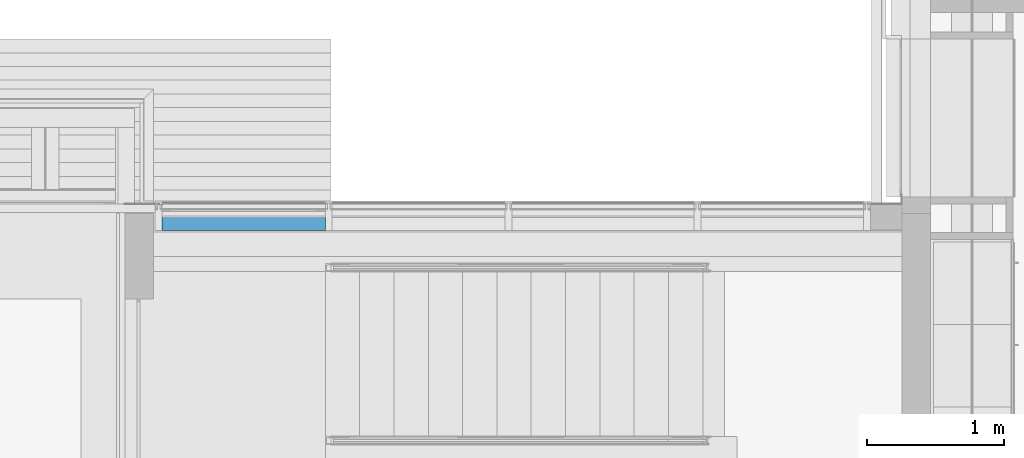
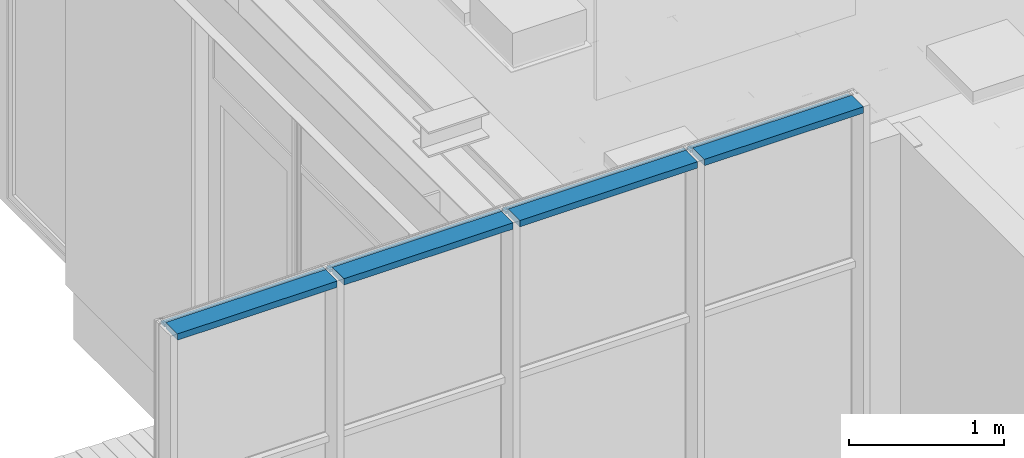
# One storey, part 105 of 347: 1 building element part, 1 opening, 1 element without a shape of its own.
"""IFC2X3 building model written with IfcOpenShell, lengths in millimetres."""

import ifcopenshell
import ifcopenshell.guid

model = None  # the IFC model being written
_history = None  # IfcOwnerHistory: only IFC2X3 demands one
_inside = {}  # id of a spatial element -> (the spatial element, [elements in it])
_under = {}  # id of a project, library or spatial element -> (it, [spatial elements below it])
_declared = {}  # id of a project -> (the project, [libraries it declares])
_typed = {}  # id of a type object -> (the type object, [elements of that type])
_made_of = {}  # id of a material, layer set ... -> (it, [elements and type objects made of it])


def new_model(schema):
    """Start an empty IFC model of exactly this schema.

    Asked for "IFC4X3", IfcOpenShell would pick the latest addendum, in which some entities
    have other attributes; the version numbers below select the first issue.
    IFC2X3 requires an IfcOwnerHistory on every rooted entity: one is made here for all.
    """
    global model, _history
    if schema == "IFC4X3":
        model = ifcopenshell.file(schema_version=(4, 3, 0, 0))
    else:
        model = ifcopenshell.file(schema=schema)
    _inside.clear()
    _under.clear()
    _declared.clear()
    _typed.clear()
    _made_of.clear()
    _history = None
    if model.schema == "IFC2X3":
        org = make("IfcOrganization", Name="unknown")
        user = make(
            "IfcPersonAndOrganization",
            ThePerson=make("IfcPerson", FamilyName="unknown"),
            TheOrganization=org,
        )
        app = make(
            "IfcApplication",
            ApplicationDeveloper=org,
            Version="unknown",
            ApplicationFullName="unknown",
            ApplicationIdentifier="unknown",
        )
        _history = make(
            "IfcOwnerHistory",
            OwningUser=user,
            OwningApplication=app,
            ChangeAction="ADDED",
            CreationDate=0,
        )
    return model


def make(cls, **values):
    """One entity of the class cls with the attributes given. An attribute that is None is left unset."""
    return model.create_entity(
        cls, **{name: value for name, value in values.items() if value is not None}
    )


def entity(cls, *values):
    """Any entity or typed value of the class cls, its attributes in the order of the schema. None: left unset."""
    e = model.create_entity(cls)
    for i, value in enumerate(values):
        if value is not None:
            e[i] = value
    return e


def rooted(cls, **values):
    """An entity with a GlobalId (a new one), such as an element, a storey or a relation."""
    return make(cls, GlobalId=ifcopenshell.guid.new(), OwnerHistory=_history, **values)


def si_unit(unit_type, name, prefix=None):
    """IfcSIUnit, for example si_unit("LENGTHUNIT", "METRE", prefix="MILLI")."""
    return make("IfcSIUnit", UnitType=unit_type, Prefix=prefix, Name=name)


def converted_unit(unit_type, name, factor, base, dimensions=None, offset=None):
    """IfcConversionBasedUnit, such as the inch: factor (a typed value) times the base unit."""
    return make(
        "IfcConversionBasedUnit"
        if offset is None
        else "IfcConversionBasedUnitWithOffset",
        ConversionOffset=offset,
        Dimensions=None
        if dimensions is None
        else entity("IfcDimensionalExponents", *dimensions),
        UnitType=unit_type,
        Name=name,
        ConversionFactor=make(
            "IfcMeasureWithUnit", ValueComponent=factor, UnitComponent=base
        ),
    )


def derived_unit(unit_type, elements):
    """IfcDerivedUnit: a product of units, each with its exponent."""
    return make(
        "IfcDerivedUnit",
        Elements=[
            make("IfcDerivedUnitElement", Unit=unit, Exponent=power)
            for unit, power in elements
        ],
        UnitType=unit_type,
    )


def money_unit(currency):
    """IfcMonetaryUnit."""
    return make("IfcMonetaryUnit", Currency=currency)


def assignment(units):
    """IfcUnitAssignment: the units of a project."""
    return None if units is None else make("IfcUnitAssignment", Units=units)


def point(xyz):
    """IfcCartesianPoint."""
    return None if xyz is None else make("IfcCartesianPoint", Coordinates=xyz)


def direction(xyz):
    """IfcDirection."""
    return None if xyz is None else make("IfcDirection", DirectionRatios=xyz)


def frame(location, z_axis=None, x_axis=None):
    """IfcAxis2Placement3D, a coordinate frame: its origin and axes. An axis left out is left unset."""
    return make(
        "IfcAxis2Placement3D",
        Location=point(location),
        Axis=direction(z_axis),
        RefDirection=direction(x_axis),
    )


def origin_with_axes():
    """The frame at (0, 0, 0) with the z axis (0, 0, 1) and the x axis (1, 0, 0) written out."""
    return frame((0.0, 0.0, 0.0), z_axis=(0.0, 0.0, 1.0), x_axis=(1.0, 0.0, 0.0))


def place(relative_to, where):
    """IfcLocalPlacement: puts the frame where relative to a parent placement (None: the world)."""
    return make(
        "IfcLocalPlacement", PlacementRelTo=relative_to, RelativePlacement=where
    )


def context(
    kind, dimensions, precision=None, world=None, true_north=None, identifier=None
):
    """IfcGeometricRepresentationContext, for example the 3D "Model" context."""
    return make(
        "IfcGeometricRepresentationContext",
        ContextIdentifier=identifier,
        ContextType=kind,
        CoordinateSpaceDimension=dimensions,
        Precision=precision,
        WorldCoordinateSystem=world,
        TrueNorth=true_north,
    )


def subcontext(parent, identifier, kind, view, scale=None):
    """IfcGeometricRepresentationSubContext, for example "Body" below "Model"."""
    return make(
        "IfcGeometricRepresentationSubContext",
        ContextIdentifier=identifier,
        ContextType=kind,
        ParentContext=parent,
        TargetScale=scale,
        TargetView=view,
    )


def project(units=None, contexts=None):
    """IfcProject with its units and contexts."""
    return rooted(
        "IfcProject",
        Name="project",
        RepresentationContexts=contexts,
        UnitsInContext=assignment(units),
    )


def spatial(cls, under=None, at=None, **own):
    """A site, building, storey or space (cls), placed at a placement, below another one or the project."""
    s = rooted(cls, ObjectPlacement=at, **own)
    if under is not None:
        _under.setdefault(under.id(), (under, []))[1].append(s)
    return s


def faces_of(points, faces, orient=None, outer=None):
    """IfcFace entities. A face is a list of loops; a loop is a list of indices into points, from 0.

    orient and outer hold one flag for each loop. By default every Orientation is true, the
    first loop of a face is its IfcFaceOuterBound and the others are IfcFaceBound.
    """
    made = []
    for i, loops in enumerate(faces):
        bounds = []
        for j, loop in enumerate(loops):
            is_outer = j == 0 if outer is None else outer[i][j]
            bounds.append(
                make(
                    "IfcFaceOuterBound" if is_outer else "IfcFaceBound",
                    Bound=make("IfcPolyLoop", Polygon=[points[k] for k in loop]),
                    Orientation=True if orient is None else orient[i][j],
                )
            )
        made.append(make("IfcFace", Bounds=bounds))
    return made


def faceted_brep(points, faces, orient=None, outer=None, voids=None):
    """IfcFacetedBrep: a solid bounded by flat faces; with voids (closed shells), ...WithVoids."""
    shared = [point(p) for p in points]
    hull = make("IfcClosedShell", CfsFaces=faces_of(shared, faces, orient, outer))
    if voids is None:
        return make("IfcFacetedBrep", Outer=hull)
    return make(
        "IfcFacetedBrepWithVoids",
        Outer=hull,
        Voids=[
            make(cls, CfsFaces=faces_of(shared, fs, o, b)) for cls, fs, o, b in voids
        ],
    )


def shape(context_of_items, identifier, shape_type, items):
    """IfcShapeRepresentation: the items that make up one representation, for example the "Body"."""
    return make(
        "IfcShapeRepresentation",
        ContextOfItems=context_of_items,
        RepresentationIdentifier=identifier,
        RepresentationType=shape_type,
        Items=items,
    )


def material(Name=None, Category=None):
    """IfcMaterial."""
    return make("IfcMaterial", Name=Name, Category=Category)


def made_of(thing, what):
    """Note that an element or type object is made of a material, layer set ...; save() writes the relation."""
    if what is not None:
        _made_of.setdefault(what.id(), (what, []))[1].append(thing)
    return thing


def type_object(cls, material=None, **own):
    """A type object (cls), such as IfcWallType, which elements share."""
    return made_of(rooted(cls, **own), material)


def element(
    cls,
    number,
    at=None,
    inside=None,
    cuts=None,
    type_object=None,
    material=None,
    context=None,
    identifier="Body",
    shape_type=None,
    held_by="IfcProductDefinitionShape",
    body=None,
    shapes=None,
    **own,
):
    """One element of the class cls, such as IfcWall. Its Tag is "e" and its number.

    at: its placement. inside: the storey or other place that contains it. cuts: it is an
    opening in that element (IfcRelVoidsElement). A single representation is given by context,
    identifier, shape_type and body (its items); several are given by shapes. held_by: the class
    of the entity that holds the representations. save() writes the other relations.
    """
    e = rooted(cls, Tag="e%d" % number, ObjectPlacement=at, **own)
    if body is not None:
        shapes = [shape(context, identifier, shape_type, body)]
    if shapes is not None:
        e.Representation = make(held_by, Representations=shapes)
    if inside is not None:
        _inside.setdefault(inside.id(), (inside, []))[1].append(e)
    if cuts is not None:
        rooted(
            "IfcRelVoidsElement", RelatingBuildingElement=cuts, RelatedOpeningElement=e
        )
    if type_object is not None:
        _typed.setdefault(type_object.id(), (type_object, []))[1].append(e)
    return made_of(e, material)


def aggregate(whole, parts):
    """IfcRelAggregates: a whole, such as a stair, and the parts it consists of."""
    return rooted("IfcRelAggregates", RelatingObject=whole, RelatedObjects=parts)


def save(model, path):
    """Write the relations noted so far, then the file.

    IfcRelAggregates (storeys below a building ...), IfcRelContainedInSpatialStructure (elements
    in a storey), IfcRelDefinesByType, IfcRelAssociatesMaterial and IfcRelDeclares: one each for
    every whole, place, type object, material and project.
    """
    for whole, parts in _under.values():
        aggregate(whole, parts)
    for where, things in _inside.values():
        rooted(
            "IfcRelContainedInSpatialStructure",
            RelatedElements=things,
            RelatingStructure=where,
        )
    for kind, things in _typed.values():
        rooted("IfcRelDefinesByType", RelatedObjects=things, RelatingType=kind)
    for what, things in _made_of.values():
        rooted("IfcRelAssociatesMaterial", RelatedObjects=things, RelatingMaterial=what)
    for by, libraries in _declared.values():
        rooted("IfcRelDeclares", RelatingContext=by, RelatedDefinitions=libraries)
    model.write(path)


model = new_model("IFC2X3")

# Units and contexts
model_context = context("Model", 3, precision=0.01, world=origin_with_axes(), true_north=direction((0.0, 1.0)))
plan_context = context("Plan", 3, precision=0.01, world=origin_with_axes(), true_north=direction((0.0, 1.0)))
body_context = subcontext(model_context, "Body", "Model", "MODEL_VIEW")
ifc_project = project(units=[si_unit("LENGTHUNIT", "METRE", prefix="MILLI"), si_unit("AREAUNIT", "SQUARE_METRE"), si_unit("VOLUMEUNIT", "CUBIC_METRE"), converted_unit("PLANEANGLEUNIT", "DEGREE", entity("IfcPlaneAngleMeasure", 0.0174532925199), si_unit("PLANEANGLEUNIT", "RADIAN"), dimensions=[0, 0, 0, 0, 0, 0, 0]), money_unit("EUR"), converted_unit("TIMEUNIT", "Year", entity("IfcTimeMeasure", 31556926.0), si_unit("TIMEUNIT", "SECOND"), dimensions=[0, 0, 1, 0, 0, 0, 0]), si_unit("MASSUNIT", "GRAM", prefix="KILO"), si_unit("THERMODYNAMICTEMPERATUREUNIT", "DEGREE_CELSIUS"), si_unit("LUMINOUSINTENSITYUNIT", "LUMEN"), si_unit("ENERGYUNIT", "JOULE", prefix="MEGA"), derived_unit("THERMALCONDUCTANCEUNIT", [(si_unit("POWERUNIT", "WATT"), 1), (si_unit("LENGTHUNIT", "METRE"), -1), (si_unit("THERMODYNAMICTEMPERATUREUNIT", "KELVIN"), -1)]), derived_unit("SPECIFICHEATCAPACITYUNIT", [(si_unit("ENERGYUNIT", "JOULE"), 1), (si_unit("MASSUNIT", "GRAM", prefix="KILO"), -1), (si_unit("THERMODYNAMICTEMPERATUREUNIT", "KELVIN"), -1)]), derived_unit("MASSDENSITYUNIT", [(si_unit("MASSUNIT", "GRAM", prefix="KILO"), 1), (si_unit("VOLUMEUNIT", "CUBIC_METRE"), -1)])], contexts=[model_context, plan_context])

# Site, building, storey
site_placement = place(None, origin_with_axes())
site = spatial("IfcSite", under=ifc_project, at=site_placement, Name="Site", CompositionType="ELEMENT")
building_placement = place(site_placement, origin_with_axes())
building = spatial("IfcBuilding", under=site, at=building_placement, Name="Naam gebouw", CompositionType="ELEMENT")
storey_placement = place(building_placement, origin_with_axes())
storey = spatial("IfcBuildingStorey", under=building, at=storey_placement, Name="begane grond", CompositionType="ELEMENT", Elevation=0.0)

# Proxy, opening, building element part
building_element_proxy_type = type_object("IfcBuildingElementProxyType", Name="31 vliesgevel drsn 212 x 8350", PredefinedType="NOTDEFINED")
proxy_placement = place(storey_placement, frame((18665.0, 18595.0, 0.0), z_axis=(0.0, 0.0, 1.0), x_axis=(1.0, 0.0, 0.0)))
proxy = element("IfcBuildingElementProxy", 1, at=proxy_placement, inside=storey, type_object=building_element_proxy_type, Name="42_53 wandtegels keramisch")
opening_placement = place(proxy_placement, frame((600.000000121, 0.0, -40.0), z_axis=(0.0, 0.0, 1.0), x_axis=(1.0, 0.0, 0.0)))
element("IfcOpeningElement", 2, at=opening_placement, cuts=proxy, Name="32_merk-C1", context=body_context, shape_type="Brep", body=[
    faceted_brep([(-601.999999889, 1541.00000358, 2640.0), (-601.999999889, 1541.00000358, 0.0), (-601.999999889, -1965.00001073, 0.0), (-601.999999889, -1965.00001073, 2640.0), (601.999999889, 1541.00000358, 2640.0), (601.999999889, 1541.00000358, 0.0), (601.999999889, -1965.00001073, 0.0), (601.999999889, -1965.00001073, 2640.0)], [[[0, 1, 2, 3]], [[0, 4, 5, 1]], [[1, 5, 6, 2]], [[3, 2, 6, 7]], [[4, 0, 3, 7]], [[5, 4, 7, 6]]]),
])
ifc_material = material(Name="Metaal - Aluminium")
building_element_part_placement = place(proxy_placement, origin_with_axes())
building_element_part = element("IfcBuildingElementPart", 3, at=building_element_part_placement, material=ifc_material, Name="Metaal - Aluminium", context=body_context, shape_type="Brep", body=[
    faceted_brep([(10.0000010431, -45.0000000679, 7824.99999994), (10.0000010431, -45.0000000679, 7840.0), (1200.0, -45.0000000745, 7840.0), (1200.0, -45.0000000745, 7824.99999994), (10.0000010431, -194.999999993, 7840.0), (10.0000010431, -45.0000000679, 7804.99999952), (10.0000010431, -45.0000000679, 7790.0), (10.0000010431, -194.999999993, 7790.0), (1200.0, -195.0, 7840.0), (1200.0, -195.0, 7790.0), (1200.0, -45.0000000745, 7790.0), (1200.0, -45.0000000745, 7804.99999952), (0.0, -45.0000000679, 7824.99999994), (1214.99999903, -45.0000000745, 7824.99999994), (1214.99999903, 5.00000096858, 7824.99999994), (0.0, 5.00000101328, 7824.99999994), (0.0, -45.0000000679, 7804.99999952), (1214.99999903, -45.0000000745, 7804.99999952), (1214.99999903, 5.00000096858, 7804.99999952), (0.0, 5.00000101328, 7804.99999952)], [[[0, 1, 2, 3]], [[4, 1, 0, 5, 6, 7]], [[1, 4, 8, 2]], [[3, 2, 8, 9, 10, 11]], [[12, 0, 3, 13, 14, 15]], [[0, 12, 16, 5]], [[6, 5, 11, 10]], [[7, 6, 10, 9]], [[4, 7, 9, 8]], [[13, 3, 11, 17]], [[18, 14, 13, 17]], [[14, 18, 19, 15]], [[16, 12, 15, 19]], [[5, 16, 19, 18, 17, 11]]]),
    faceted_brep([(3935.00000104, -45.0000000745, 7824.99999994), (3935.00000104, -45.0000000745, 7840.0), (5119.99999993, -44.9999984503, 7839.99999946), (5119.99999993, -44.9999984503, 7824.99999994), (3935.00000104, -195.0, 7840.0), (3935.00000104, -45.0000000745, 7804.99999952), (3935.00000104, -45.0000000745, 7790.0), (3935.00000104, -195.0, 7790.0), (5119.99999993, -195.0, 7839.99999946), (5119.99999993, 5.00000101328, 7824.99999994), (5119.99999993, -195.0, 7790.0), (5119.99999993, -44.9999984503, 7790.0), (5119.99999993, -44.9999984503, 7804.99999952), (5119.99999993, 5.00000101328, 7804.99999952), (3919.99999881, -45.0000000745, 7824.99999994), (3919.99999881, 5.00000096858, 7824.99999994), (3919.99999881, -45.0000000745, 7804.99999952), (3919.99999881, 5.00000096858, 7804.99999952)], [[[0, 1, 2, 3]], [[4, 1, 0, 5, 6, 7]], [[1, 4, 8, 2]], [[9, 3, 2, 8, 10, 11, 12, 13]], [[14, 0, 3, 9, 15]], [[0, 14, 16, 5]], [[6, 5, 12, 11]], [[7, 6, 11, 10]], [[4, 7, 10, 8]], [[16, 17, 13, 12, 5]], [[17, 15, 9, 13]], [[14, 15, 17, 16]]]),
    faceted_brep([(2560.00000104, -45.0000007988, 7824.99999994), (2560.00000104, -45.0000007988, 7840.0), (3885.0, -45.0000000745, 7840.0), (3885.0, -45.0000000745, 7824.99999994), (2560.00000104, -195.000000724, 7840.0), (2560.00000104, -45.0000007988, 7804.99999952), (2560.00000104, -45.0000007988, 7790.0), (2560.00000104, -195.000000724, 7790.0), (3885.0, -195.0, 7840.0), (3885.0, -195.0, 7790.0), (3885.0, -45.0000000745, 7790.0), (3885.0, -45.0000000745, 7804.99999952), (2544.99999881, -45.0000007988, 7824.99999994), (3899.99999903, -45.0000000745, 7824.99999994), (3899.99999903, 5.00000096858, 7824.99999994), (2544.99999881, 5.00000024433, 7824.99999994), (2544.99999881, -45.0000007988, 7804.99999952), (3899.99999903, -45.0000000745, 7804.99999952), (3899.99999903, 5.00000096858, 7804.99999952), (2544.99999881, 5.00000024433, 7804.99999952)], [[[0, 1, 2, 3]], [[4, 1, 0, 5, 6, 7]], [[1, 4, 8, 2]], [[3, 2, 8, 9, 10, 11]], [[12, 0, 3, 13, 14, 15]], [[0, 12, 16, 5]], [[6, 5, 11, 10]], [[7, 6, 10, 9]], [[4, 7, 9, 8]], [[13, 3, 11, 17]], [[18, 14, 13, 17]], [[19, 15, 14, 18]], [[12, 15, 19, 16]], [[16, 19, 18, 17, 11, 5]]]),
    faceted_brep([(1250.00000104, -45.0000000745, 7824.99999994), (1250.00000104, -45.0000000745, 7840.0), (2510.0, -45.0000007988, 7840.0), (2510.0, -45.0000007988, 7824.99999994), (1250.00000104, -195.0, 7840.0), (1250.00000104, -45.0000000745, 7804.99999952), (1250.00000104, -45.0000000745, 7790.0), (1250.00000104, -195.0, 7790.0), (2510.0, -195.000000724, 7840.0), (2510.0, -195.000000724, 7790.0), (2510.0, -45.0000007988, 7790.0), (2510.0, -45.0000007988, 7804.99999952), (1234.99999881, -45.0000000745, 7824.99999994), (2524.99999903, -45.0000007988, 7824.99999994), (2524.99999903, 5.00000024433, 7824.99999994), (1234.99999881, 5.00000096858, 7824.99999994), (1234.99999881, -45.0000000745, 7804.99999952), (2524.99999903, -45.0000007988, 7804.99999952), (2524.99999903, 5.00000024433, 7804.99999952), (1234.99999881, 5.00000096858, 7804.99999952)], [[[0, 1, 2, 3]], [[4, 1, 0, 5, 6, 7]], [[1, 4, 8, 2]], [[3, 2, 8, 9, 10, 11]], [[12, 0, 3, 13, 14, 15]], [[0, 12, 16, 5]], [[6, 5, 11, 10]], [[7, 6, 10, 9]], [[4, 7, 9, 8]], [[13, 3, 11, 17]], [[18, 14, 13, 17]], [[19, 15, 14, 18]], [[12, 15, 19, 16]], [[16, 19, 18, 17, 11, 5]]]),
])
aggregate(proxy, [building_element_part])

save(model, "model.ifc")
